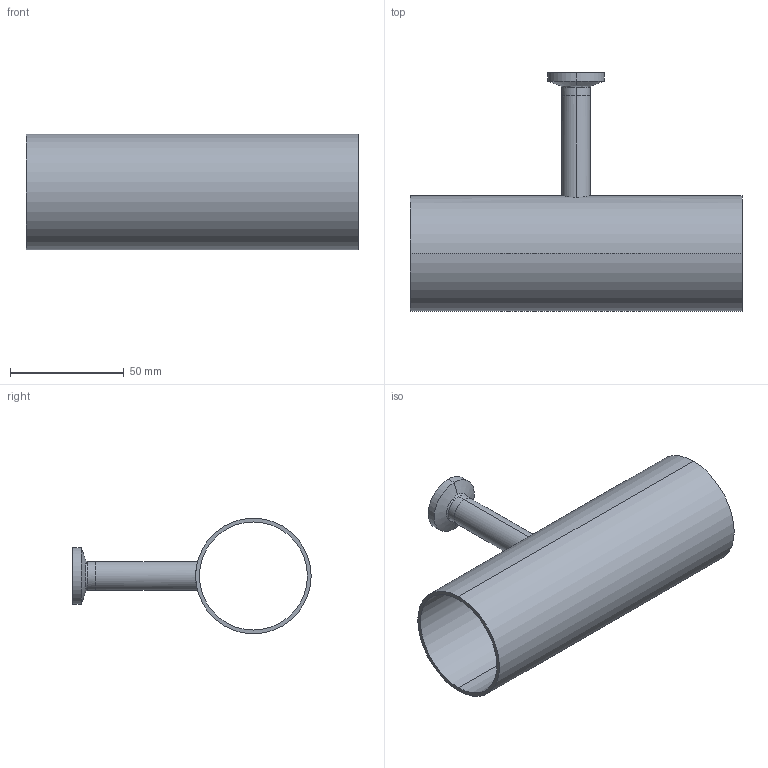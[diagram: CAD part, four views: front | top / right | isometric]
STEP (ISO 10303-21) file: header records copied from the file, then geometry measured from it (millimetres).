
FILE_DESCRIPTION (( 'STEP AP214' ), '1' );
FILE_NAME ('TE7RWWC6L2.0x.5-...STEP', '2016-05-23T08:02:07', ( 'eran' ), ( '' ), 'SwSTEP 2.0', 'SolidWorks 2016', '' );
FILE_SCHEMA (( 'AUTOMOTIVE_DESIGN' ));
Length unit declared in the file: millimetre
Products named in the file (1): TE7RWWC6L2.0x.5-..
Bounding box: 146 x 104.8 x 50.8 mm (x, y, z)
Volume: 41509.8 mm3; surface area: 50307.8 mm2
Topology: 2 solids, 2 shells, 34 faces, 82 edges, 54 vertices
Faces by surface type: cylinder 16, bspline 8, plane 6, cone 4
Entity records: 1311 total; most frequent: CARTESIAN_POINT 455, DIRECTION 182, ORIENTED_EDGE 164, EDGE_CURVE 82, AXIS2_PLACEMENT_3D 81, VERTEX_POINT 54, CIRCLE 54, EDGE_LOOP 42
